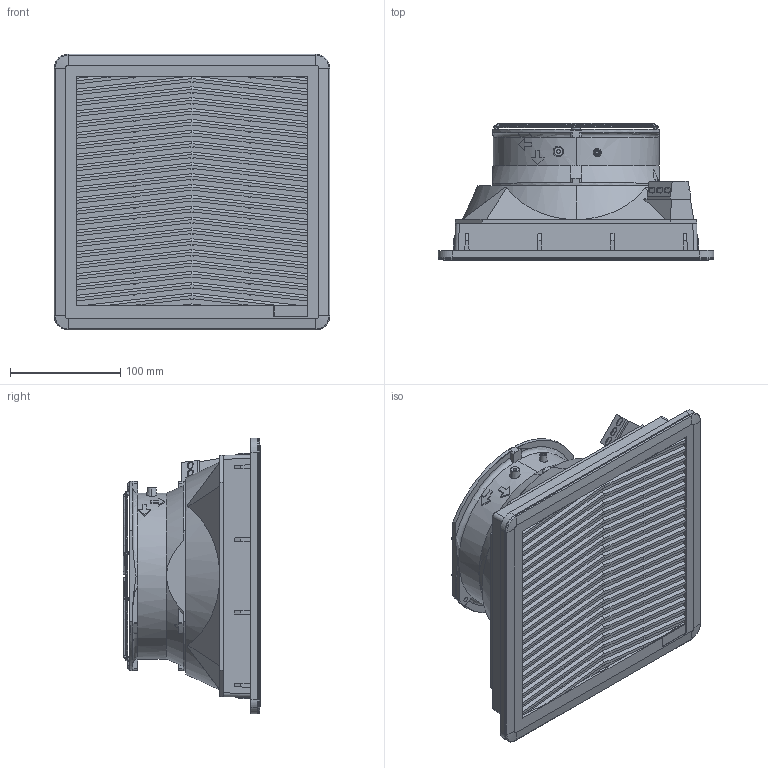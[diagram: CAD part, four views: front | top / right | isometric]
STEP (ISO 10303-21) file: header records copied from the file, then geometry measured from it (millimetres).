
FILE_DESCRIPTION (( 'STEP AP214' ), '1' );
FILE_NAME ('FF15DxxyFR.STEP', '2023-09-29T07:48:52', ( '' ), ( '' ), 'SwSTEP 2.0', 'SolidWorks 2022', '' );
FILE_SCHEMA (( 'AUTOMOTIVE_DESIGN' ));
Length unit declared in the file: millimetre
Products named in the file (8): 040013_LK_980-01-3_morsettiera semplificata; FF15DxxyFR; DT-00159DSI_Base semplificata; DT-04082DSI_mostrina semplificata; DT-02406DSI_Semplificato; DT-02106DSI_P15FPF-nnnn semplificata; DT-02364DSI; DT-00158DSI_Sede etichetta semplificato
Assembly tree (7 placements, depth 2):
  FF15DxxyFR
    DT-00158DSI_Sede etichetta semplificato
    DT-02106DSI_P15FPF-nnnn semplificata
    DT-02406DSI_Semplificato
    DT-02364DSI
    040013_LK_980-01-3_morsettiera semplificata
    DT-04082DSI_mostrina semplificata
    DT-00159DSI_Base semplificata
Bounding box: 250.12 x 124.55 x 250.08 mm (x, y, z)
Volume: 3681460.8 mm3; surface area: 516617.3 mm2
Topology: 6 solids, 7 shells, 980 faces, 2826 edges, 1864 vertices
Faces by surface type: plane 731, torus 84, bspline 76, cylinder 63, cone 26
Entity records: 38460 total; most frequent: CARTESIAN_POINT 14155, ORIENTED_EDGE 5652, DIRECTION 3696, EDGE_CURVE 2826, VERTEX_POINT 1864, VECTOR 1282, LINE 1282, AXIS2_PLACEMENT_3D 1207
